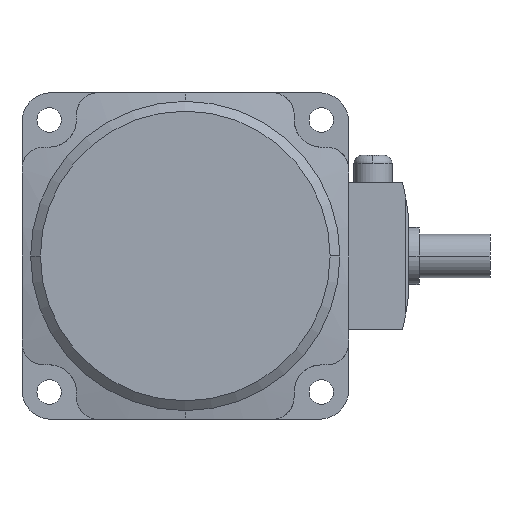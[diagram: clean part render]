
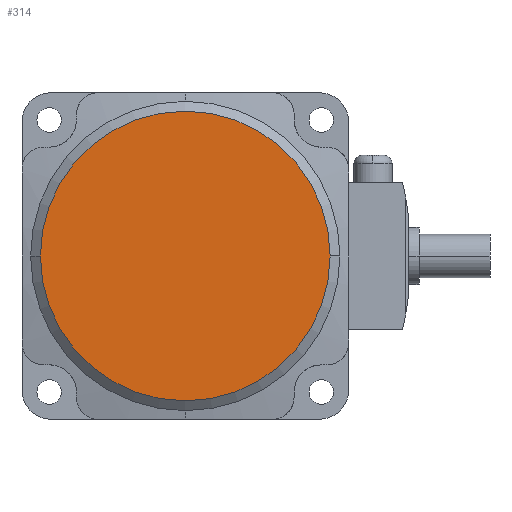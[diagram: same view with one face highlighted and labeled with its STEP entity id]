
A CAD part, left-side view. The second image highlights one B-rep face of the part: STEP entity #314.
In plain terms, the highlighted planar face has unit normal (-1, 0, 0).
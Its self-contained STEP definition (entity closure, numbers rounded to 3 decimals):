
#314 = ADVANCED_FACE( '', ( #810 ), #811, .F. );
#810 = FACE_OUTER_BOUND( '', #1312, .T. );
#811 = PLANE( '', #1313 );
#1312 = EDGE_LOOP( '', ( #3382, #3383 ) );
#1313 = AXIS2_PLACEMENT_3D( '', #3384, #3385, #3386 );
#3382 = ORIENTED_EDGE( '', *, *, #3444, .T. );
#3383 = ORIENTED_EDGE( '', *, *, #4072, .T. );
#3384 = CARTESIAN_POINT( '', ( -64.5, 0., 0. ) );
#3385 = DIRECTION( '', ( 1., 0., 0. ) );
#3386 = DIRECTION( '', ( 0., 0., -1. ) );
#3444 = EDGE_CURVE( '', #4157, #4160, #4162, .T. );
#4072 = EDGE_CURVE( '', #4160, #4157, #5207, .T. );
#4157 = VERTEX_POINT( '', #5402 );
#4160 = VERTEX_POINT( '', #5406 );
#4162 = CIRCLE( '', #5409, 26.616 );
#5207 = CIRCLE( '', #7069, 26.616 );
#5402 = CARTESIAN_POINT( '', ( -64.5, 26.616, 0. ) );
#5406 = CARTESIAN_POINT( '', ( -64.5, -26.616, 0. ) );
#5409 = AXIS2_PLACEMENT_3D( '', #7157, #7158, #7159 );
#7069 = AXIS2_PLACEMENT_3D( '', #8169, #8170, #8171 );
#7157 = CARTESIAN_POINT( '', ( -64.5, 0., 0. ) );
#7158 = DIRECTION( '', ( -1., 0., 0. ) );
#7159 = DIRECTION( '', ( 0., 1., 0. ) );
#8169 = CARTESIAN_POINT( '', ( -64.5, 0., 0. ) );
#8170 = DIRECTION( '', ( -1., 0., 0. ) );
#8171 = DIRECTION( '', ( 0., 1., 0. ) );
